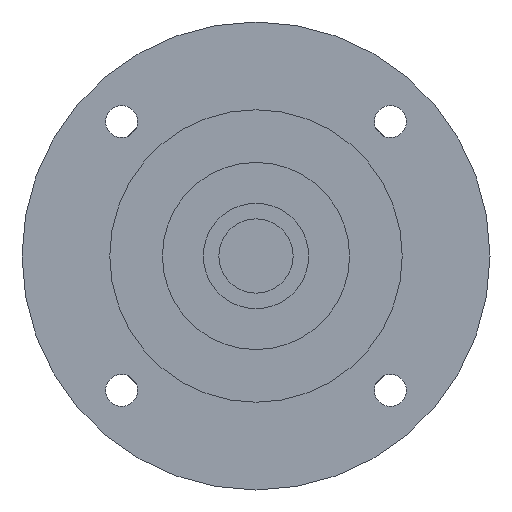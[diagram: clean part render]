
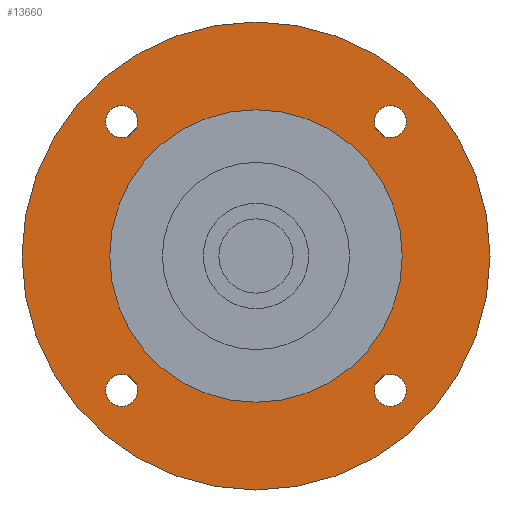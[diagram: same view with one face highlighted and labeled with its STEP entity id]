
A CAD part, left-side view. The second image highlights one B-rep face of the part: STEP entity #13660.
In plain terms, the highlighted planar face has unit normal (-1, 0, 0) as drawn and (0, 0, -1) by its records, which use the part's own axes.
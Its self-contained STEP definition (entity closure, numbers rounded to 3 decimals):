
#8600=CARTESIAN_POINT('',(0.,0.,-35.
));
#8610=DIRECTION('',(0.,0.,-1.));
#8620=DIRECTION('',(0.,-1.,0.));
#8630=AXIS2_PLACEMENT_3D('',#8600,#8610,#8620);
#8640=CIRCLE('',#8630,40.);
#8650=CARTESIAN_POINT('',(0.,-40.,-35.));
#8660=VERTEX_POINT('',#8650);
#8670=CARTESIAN_POINT('',(-40.,0.,-35.));
#8680=VERTEX_POINT('',#8670);
#8690=EDGE_CURVE('',#8660,#8680,#8640,.T.);
#8960=CARTESIAN_POINT('',(40.,0.,-35.));
#8970=VERTEX_POINT('',#8960);
#9000=EDGE_CURVE('',#8970,#8660,#8640,.T.);
#12610=CARTESIAN_POINT('',(25.,0.,-35.));
#12620=VERTEX_POINT('',#12610);
#12650=CARTESIAN_POINT('',(0.,0.,
-35.));
#12660=DIRECTION('',(0.,0.,1.));
#12670=DIRECTION('',(0.,1.,0.));
#12680=AXIS2_PLACEMENT_3D('',#12650,#12660,#12670);
#12690=CIRCLE('',#12680,25.);
#12700=CARTESIAN_POINT('',(0.,25.,-35.));
#12710=VERTEX_POINT('',#12700);
#12720=EDGE_CURVE('',#12620,#12710,#12690,.T.);
#12740=CARTESIAN_POINT('',(-25.,0.,-35.));
#12750=VERTEX_POINT('',#12740);
#12760=EDGE_CURVE('',#12710,#12750,#12690,.T.);
#12890=CARTESIAN_POINT('',(0.,0.,
-35.));
#12900=DIRECTION('',(0.,0.,-1.));
#12910=DIRECTION('',(1.,0.,0.));
#12920=AXIS2_PLACEMENT_3D('',#12890,#12900,#12910);
#12930=PLANE('',#12920);
#12940=CARTESIAN_POINT('',(22.981,-22.981,-35.));
#12950=DIRECTION('',(0.,0.,-1.));
#12960=DIRECTION('',(1.,0.,0.));
#12970=AXIS2_PLACEMENT_3D('',#12940,#12950,#12960);
#12980=CIRCLE('',#12970,2.75);
#12990=CARTESIAN_POINT('',(25.731,-22.981,-35.));
#13000=VERTEX_POINT('',#12990);
#13010=CARTESIAN_POINT('',(20.231,-22.981,-35.));
#13020=VERTEX_POINT('',#13010);
#13030=EDGE_CURVE('',#13000,#13020,#12980,.T.);
#13040=ORIENTED_EDGE('',*,*,#13030,.F.);
#13050=EDGE_CURVE('',#13020,#13000,#12980,.T.);
#13060=ORIENTED_EDGE('',*,*,#13050,.F.);
#13070=EDGE_LOOP('',(#13060,#13040));
#13080=FACE_BOUND('',#13070,.T.);
#13090=EDGE_CURVE('',#8680,#8970,#8640,.T.);
#13100=ORIENTED_EDGE('',*,*,#13090,.T.);
#13110=ORIENTED_EDGE('',*,*,#8690,.T.);
#13120=ORIENTED_EDGE('',*,*,#9000,.T.);
#13130=EDGE_LOOP('',(#13120,#13110,#13100));
#13140=FACE_OUTER_BOUND('',#13130,.T.);
#13150=CARTESIAN_POINT('',(22.981,22.981,-35.));
#13160=DIRECTION('',(0.,0.,-1.));
#13170=DIRECTION('',(0.,1.,0.));
#13180=AXIS2_PLACEMENT_3D('',#13150,#13160,#13170);
#13190=CIRCLE('',#13180,2.75);
#13200=CARTESIAN_POINT('',(22.981,25.731,-35.));
#13210=VERTEX_POINT('',#13200);
#13220=CARTESIAN_POINT('',(22.981,20.231,-35.));
#13230=VERTEX_POINT('',#13220);
#13240=EDGE_CURVE('',#13210,#13230,#13190,.T.);
#13250=ORIENTED_EDGE('',*,*,#13240,.F.);
#13260=EDGE_CURVE('',#13230,#13210,#13190,.T.);
#13270=ORIENTED_EDGE('',*,*,#13260,.F.);
#13280=EDGE_LOOP('',(#13270,#13250));
#13290=FACE_BOUND('',#13280,.T.);
#13300=CARTESIAN_POINT('',(-22.981,22.981,-35.));
#13310=DIRECTION('',(0.,0.,-1.));
#13320=DIRECTION('',(-1.,0.,0.));
#13330=AXIS2_PLACEMENT_3D('',#13300,#13310,#13320);
#13340=CIRCLE('',#13330,2.75);
#13350=CARTESIAN_POINT('',(-25.731,22.981,-35.));
#13360=VERTEX_POINT('',#13350);
#13370=CARTESIAN_POINT('',(-20.231,22.981,-35.));
#13380=VERTEX_POINT('',#13370);
#13390=EDGE_CURVE('',#13360,#13380,#13340,.T.);
#13400=ORIENTED_EDGE('',*,*,#13390,.F.);
#13410=EDGE_CURVE('',#13380,#13360,#13340,.T.);
#13420=ORIENTED_EDGE('',*,*,#13410,.F.);
#13430=EDGE_LOOP('',(#13420,#13400));
#13440=FACE_BOUND('',#13430,.T.);
#13450=CARTESIAN_POINT('',(-22.981,-22.981,-35.));
#13460=DIRECTION('',(0.,0.,-1.));
#13470=DIRECTION('',(0.,-1.,0.));
#13480=AXIS2_PLACEMENT_3D('',#13450,#13460,#13470);
#13490=CIRCLE('',#13480,2.75);
#13500=CARTESIAN_POINT('',(-22.981,-25.731,-35.));
#13510=VERTEX_POINT('',#13500);
#13520=CARTESIAN_POINT('',(-22.981,-20.231,-35.));
#13530=VERTEX_POINT('',#13520);
#13540=EDGE_CURVE('',#13510,#13530,#13490,.T.);
#13550=ORIENTED_EDGE('',*,*,#13540,.F.);
#13560=EDGE_CURVE('',#13530,#13510,#13490,.T.);
#13570=ORIENTED_EDGE('',*,*,#13560,.F.);
#13580=EDGE_LOOP('',(#13570,#13550));
#13590=FACE_BOUND('',#13580,.T.);
#13600=EDGE_CURVE('',#12750,#12620,#12690,.T.);
#13610=ORIENTED_EDGE('',*,*,#13600,.T.);
#13620=ORIENTED_EDGE('',*,*,#12760,.T.);
#13630=ORIENTED_EDGE('',*,*,#12720,.T.);
#13640=EDGE_LOOP('',(#13630,#13620,#13610));
#13650=FACE_BOUND('',#13640,.T.);
#13660=ADVANCED_FACE('',(#13080,#13140,#13290,#13440,#13590,#13650),
#12930,.T.);
